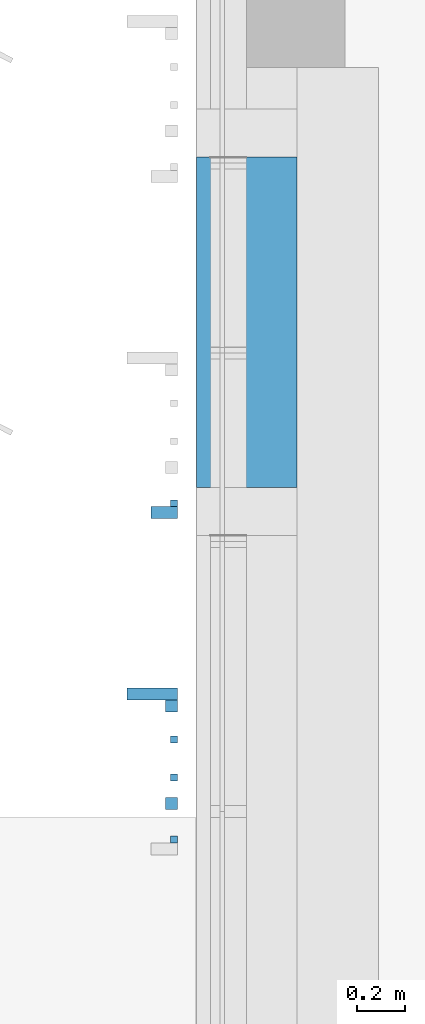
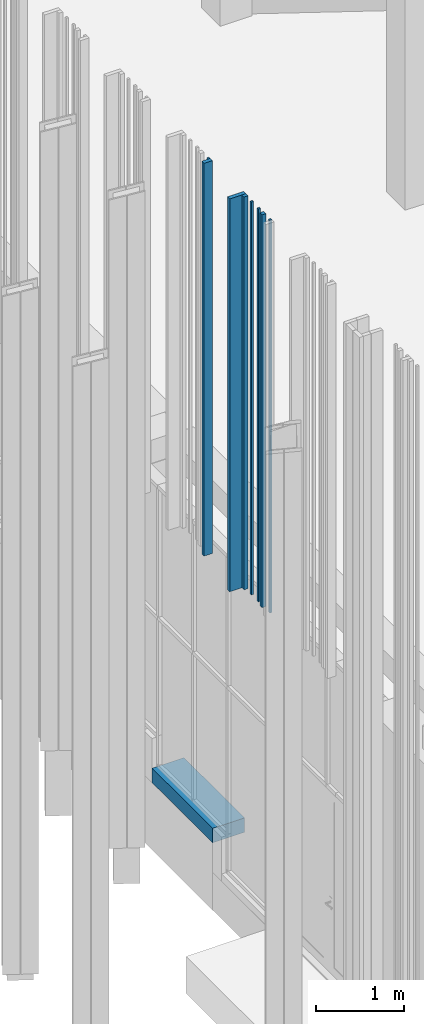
# One storey, part 106 of 390: 9 walls.
"""IFC2X3 building model written with IfcOpenShell, lengths in millimetres."""

import ifcopenshell
import ifcopenshell.guid

model = None  # the IFC model being written
_history = None  # IfcOwnerHistory: only IFC2X3 demands one
_inside = {}  # id of a spatial element -> (the spatial element, [elements in it])
_under = {}  # id of a project, library or spatial element -> (it, [spatial elements below it])
_declared = {}  # id of a project -> (the project, [libraries it declares])
_typed = {}  # id of a type object -> (the type object, [elements of that type])
_made_of = {}  # id of a material, layer set ... -> (it, [elements and type objects made of it])


def new_model(schema):
    """Start an empty IFC model of exactly this schema.

    Asked for "IFC4X3", IfcOpenShell would pick the latest addendum, in which some entities
    have other attributes; the version numbers below select the first issue.
    IFC2X3 requires an IfcOwnerHistory on every rooted entity: one is made here for all.
    """
    global model, _history
    if schema == "IFC4X3":
        model = ifcopenshell.file(schema_version=(4, 3, 0, 0))
    else:
        model = ifcopenshell.file(schema=schema)
    _inside.clear()
    _under.clear()
    _declared.clear()
    _typed.clear()
    _made_of.clear()
    _history = None
    if model.schema == "IFC2X3":
        org = make("IfcOrganization", Name="unknown")
        user = make(
            "IfcPersonAndOrganization",
            ThePerson=make("IfcPerson", FamilyName="unknown"),
            TheOrganization=org,
        )
        app = make(
            "IfcApplication",
            ApplicationDeveloper=org,
            Version="unknown",
            ApplicationFullName="unknown",
            ApplicationIdentifier="unknown",
        )
        _history = make(
            "IfcOwnerHistory",
            OwningUser=user,
            OwningApplication=app,
            ChangeAction="ADDED",
            CreationDate=0,
        )
    return model


def make(cls, **values):
    """One entity of the class cls with the attributes given. An attribute that is None is left unset."""
    return model.create_entity(
        cls, **{name: value for name, value in values.items() if value is not None}
    )


def entity(cls, *values):
    """Any entity or typed value of the class cls, its attributes in the order of the schema. None: left unset."""
    e = model.create_entity(cls)
    for i, value in enumerate(values):
        if value is not None:
            e[i] = value
    return e


def rooted(cls, **values):
    """An entity with a GlobalId (a new one), such as an element, a storey or a relation."""
    return make(cls, GlobalId=ifcopenshell.guid.new(), OwnerHistory=_history, **values)


def si_unit(unit_type, name, prefix=None):
    """IfcSIUnit, for example si_unit("LENGTHUNIT", "METRE", prefix="MILLI")."""
    return make("IfcSIUnit", UnitType=unit_type, Prefix=prefix, Name=name)


def converted_unit(unit_type, name, factor, base, dimensions=None, offset=None):
    """IfcConversionBasedUnit, such as the inch: factor (a typed value) times the base unit."""
    return make(
        "IfcConversionBasedUnit"
        if offset is None
        else "IfcConversionBasedUnitWithOffset",
        ConversionOffset=offset,
        Dimensions=None
        if dimensions is None
        else entity("IfcDimensionalExponents", *dimensions),
        UnitType=unit_type,
        Name=name,
        ConversionFactor=make(
            "IfcMeasureWithUnit", ValueComponent=factor, UnitComponent=base
        ),
    )


def derived_unit(unit_type, elements):
    """IfcDerivedUnit: a product of units, each with its exponent."""
    return make(
        "IfcDerivedUnit",
        Elements=[
            make("IfcDerivedUnitElement", Unit=unit, Exponent=power)
            for unit, power in elements
        ],
        UnitType=unit_type,
    )


def money_unit(currency):
    """IfcMonetaryUnit."""
    return make("IfcMonetaryUnit", Currency=currency)


def assignment(units):
    """IfcUnitAssignment: the units of a project."""
    return None if units is None else make("IfcUnitAssignment", Units=units)


def point(xyz):
    """IfcCartesianPoint."""
    return None if xyz is None else make("IfcCartesianPoint", Coordinates=xyz)


def direction(xyz):
    """IfcDirection."""
    return None if xyz is None else make("IfcDirection", DirectionRatios=xyz)


def frame(location, z_axis=None, x_axis=None):
    """IfcAxis2Placement3D, a coordinate frame: its origin and axes. An axis left out is left unset."""
    return make(
        "IfcAxis2Placement3D",
        Location=point(location),
        Axis=direction(z_axis),
        RefDirection=direction(x_axis),
    )


def origin_with_axes():
    """The frame at (0, 0, 0) with the z axis (0, 0, 1) and the x axis (1, 0, 0) written out."""
    return frame((0.0, 0.0, 0.0), z_axis=(0.0, 0.0, 1.0), x_axis=(1.0, 0.0, 0.0))


def place(relative_to, where):
    """IfcLocalPlacement: puts the frame where relative to a parent placement (None: the world)."""
    return make(
        "IfcLocalPlacement", PlacementRelTo=relative_to, RelativePlacement=where
    )


def context(
    kind, dimensions, precision=None, world=None, true_north=None, identifier=None
):
    """IfcGeometricRepresentationContext, for example the 3D "Model" context."""
    return make(
        "IfcGeometricRepresentationContext",
        ContextIdentifier=identifier,
        ContextType=kind,
        CoordinateSpaceDimension=dimensions,
        Precision=precision,
        WorldCoordinateSystem=world,
        TrueNorth=true_north,
    )


def subcontext(parent, identifier, kind, view, scale=None):
    """IfcGeometricRepresentationSubContext, for example "Body" below "Model"."""
    return make(
        "IfcGeometricRepresentationSubContext",
        ContextIdentifier=identifier,
        ContextType=kind,
        ParentContext=parent,
        TargetScale=scale,
        TargetView=view,
    )


def project(units=None, contexts=None):
    """IfcProject with its units and contexts."""
    return rooted(
        "IfcProject",
        Name="project",
        RepresentationContexts=contexts,
        UnitsInContext=assignment(units),
    )


def spatial(cls, under=None, at=None, **own):
    """A site, building, storey or space (cls), placed at a placement, below another one or the project."""
    s = rooted(cls, ObjectPlacement=at, **own)
    if under is not None:
        _under.setdefault(under.id(), (under, []))[1].append(s)
    return s


def faces_of(points, faces, orient=None, outer=None):
    """IfcFace entities. A face is a list of loops; a loop is a list of indices into points, from 0.

    orient and outer hold one flag for each loop. By default every Orientation is true, the
    first loop of a face is its IfcFaceOuterBound and the others are IfcFaceBound.
    """
    made = []
    for i, loops in enumerate(faces):
        bounds = []
        for j, loop in enumerate(loops):
            is_outer = j == 0 if outer is None else outer[i][j]
            bounds.append(
                make(
                    "IfcFaceOuterBound" if is_outer else "IfcFaceBound",
                    Bound=make("IfcPolyLoop", Polygon=[points[k] for k in loop]),
                    Orientation=True if orient is None else orient[i][j],
                )
            )
        made.append(make("IfcFace", Bounds=bounds))
    return made


def faceted_brep(points, faces, orient=None, outer=None, voids=None):
    """IfcFacetedBrep: a solid bounded by flat faces; with voids (closed shells), ...WithVoids."""
    shared = [point(p) for p in points]
    hull = make("IfcClosedShell", CfsFaces=faces_of(shared, faces, orient, outer))
    if voids is None:
        return make("IfcFacetedBrep", Outer=hull)
    return make(
        "IfcFacetedBrepWithVoids",
        Outer=hull,
        Voids=[
            make(cls, CfsFaces=faces_of(shared, fs, o, b)) for cls, fs, o, b in voids
        ],
    )


def shape(context_of_items, identifier, shape_type, items):
    """IfcShapeRepresentation: the items that make up one representation, for example the "Body"."""
    return make(
        "IfcShapeRepresentation",
        ContextOfItems=context_of_items,
        RepresentationIdentifier=identifier,
        RepresentationType=shape_type,
        Items=items,
    )


def material(Name=None, Category=None):
    """IfcMaterial."""
    return make("IfcMaterial", Name=Name, Category=Category)


def material_list(materials):
    """IfcMaterialList."""
    return make("IfcMaterialList", Materials=materials)


def made_of(thing, what):
    """Note that an element or type object is made of a material, layer set ...; save() writes the relation."""
    if what is not None:
        _made_of.setdefault(what.id(), (what, []))[1].append(thing)
    return thing


def type_object(cls, material=None, **own):
    """A type object (cls), such as IfcWallType, which elements share."""
    return made_of(rooted(cls, **own), material)


def element(
    cls,
    number,
    at=None,
    inside=None,
    cuts=None,
    type_object=None,
    material=None,
    context=None,
    identifier="Body",
    shape_type=None,
    held_by="IfcProductDefinitionShape",
    body=None,
    shapes=None,
    **own,
):
    """One element of the class cls, such as IfcWall. Its Tag is "e" and its number.

    at: its placement. inside: the storey or other place that contains it. cuts: it is an
    opening in that element (IfcRelVoidsElement). A single representation is given by context,
    identifier, shape_type and body (its items); several are given by shapes. held_by: the class
    of the entity that holds the representations. save() writes the other relations.
    """
    e = rooted(cls, Tag="e%d" % number, ObjectPlacement=at, **own)
    if body is not None:
        shapes = [shape(context, identifier, shape_type, body)]
    if shapes is not None:
        e.Representation = make(held_by, Representations=shapes)
    if inside is not None:
        _inside.setdefault(inside.id(), (inside, []))[1].append(e)
    if cuts is not None:
        rooted(
            "IfcRelVoidsElement", RelatingBuildingElement=cuts, RelatedOpeningElement=e
        )
    if type_object is not None:
        _typed.setdefault(type_object.id(), (type_object, []))[1].append(e)
    return made_of(e, material)


def aggregate(whole, parts):
    """IfcRelAggregates: a whole, such as a stair, and the parts it consists of."""
    return rooted("IfcRelAggregates", RelatingObject=whole, RelatedObjects=parts)


def save(model, path):
    """Write the relations noted so far, then the file.

    IfcRelAggregates (storeys below a building ...), IfcRelContainedInSpatialStructure (elements
    in a storey), IfcRelDefinesByType, IfcRelAssociatesMaterial and IfcRelDeclares: one each for
    every whole, place, type object, material and project.
    """
    for whole, parts in _under.values():
        aggregate(whole, parts)
    for where, things in _inside.values():
        rooted(
            "IfcRelContainedInSpatialStructure",
            RelatedElements=things,
            RelatingStructure=where,
        )
    for kind, things in _typed.values():
        rooted("IfcRelDefinesByType", RelatedObjects=things, RelatingType=kind)
    for what, things in _made_of.values():
        rooted("IfcRelAssociatesMaterial", RelatedObjects=things, RelatingMaterial=what)
    for by, libraries in _declared.values():
        rooted("IfcRelDeclares", RelatingContext=by, RelatedDefinitions=libraries)
    model.write(path)


model = new_model("IFC2X3")

# Units and contexts
model_context = context("Model", 3, precision=1e-05, world=origin_with_axes(), true_north=direction((0.0, 1.0)))
body_context = subcontext(model_context, "Body", "Model", "MODEL_VIEW")
ifc_project = project(units=[si_unit("LENGTHUNIT", "METRE", prefix="MILLI"), si_unit("AREAUNIT", "SQUARE_METRE"), si_unit("VOLUMEUNIT", "CUBIC_METRE"), converted_unit("PLANEANGLEUNIT", "DEGREE", entity("IfcPlaneAngleMeasure", 0.0174532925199), si_unit("PLANEANGLEUNIT", "RADIAN"), dimensions=[0, 0, 0, 0, 0, 0, 0]), si_unit("SOLIDANGLEUNIT", "STERADIAN"), money_unit("EUR"), converted_unit("TIMEUNIT", "Year", entity("IfcTimeMeasure", 31556926.0), si_unit("TIMEUNIT", "SECOND"), dimensions=[0, 0, 1, 0, 0, 0, 0]), si_unit("MASSUNIT", "GRAM", prefix="KILO"), si_unit("THERMODYNAMICTEMPERATUREUNIT", "DEGREE_CELSIUS"), si_unit("LUMINOUSINTENSITYUNIT", "LUMEN"), si_unit("ENERGYUNIT", "JOULE", prefix="MEGA"), derived_unit("THERMALCONDUCTANCEUNIT", [(si_unit("POWERUNIT", "WATT"), 1), (si_unit("LENGTHUNIT", "METRE"), -1), (si_unit("THERMODYNAMICTEMPERATUREUNIT", "KELVIN"), -1)]), derived_unit("SPECIFICHEATCAPACITYUNIT", [(si_unit("ENERGYUNIT", "JOULE"), 1), (si_unit("MASSUNIT", "GRAM", prefix="KILO"), -1), (si_unit("THERMODYNAMICTEMPERATUREUNIT", "KELVIN"), -1)]), derived_unit("MASSDENSITYUNIT", [(si_unit("MASSUNIT", "GRAM", prefix="KILO"), 1), (si_unit("VOLUMEUNIT", "CUBIC_METRE"), -1)])], contexts=[model_context])

# Site, building, storey
site_placement = place(None, origin_with_axes())
site = spatial("IfcSite", under=ifc_project, at=site_placement, Name="Site", CompositionType="ELEMENT")
building_placement = place(site_placement, origin_with_axes())
building = spatial("IfcBuilding", under=site, at=building_placement, Name="Building", CompositionType="ELEMENT")
storey_placement = place(building_placement, origin_with_axes())
storey = spatial("IfcBuildingStorey", under=building, at=storey_placement, Name="1 korrus", CompositionType="ELEMENT", Elevation=0.0)

# Walls
ifc_material_1 = material(Name="Site specified")
wall_type_1 = type_object("IfcWallType", Name="Puitfassaadi ribistik", PredefinedType="NOTDEFINED")
wall_1_placement = place(storey_placement, frame((122308.499997, 49352.0000095, 4424.99966101), z_axis=(0.0, 0.0, 1.0), x_axis=(0.0, 1.0, 0.0)))
element("IfcWall", 1, at=wall_1_placement, inside=storey, type_object=wall_type_1, material=ifc_material_1, Name="Site specified", context=body_context, shape_type="Brep", body=[
    faceted_brep([(25.0, 104.5, 5440.00033899), (25.0, 104.5, 0.0), (-25.0, 104.5, 0.0), (-25.0, 104.5, 5440.00033899), (25.0, -104.5, 5440.00033899), (25.0, -104.5, 0.0), (-25.0, -104.5, 0.0), (-25.0, -104.5, 5440.00033899)], [[[0, 1, 2, 3]], [[4, 5, 1, 0]], [[2, 1, 5, 6]], [[3, 2, 6, 7]], [[4, 0, 3, 7]], [[7, 6, 5, 4]]]),
])
for number, where, z_axis, x_axis, name in (
    (2, (122398.999997, 48747.0000095, 4424.99966101), (0.0, 0.0, 1.0), (0.0, 1.0, 0.0), "Site specified"),
    (3, (122398.999997, 49005.0000095, 4424.99966101), (0.0, 0.0, 1.0), (0.0, 1.0, 0.0), "Site specified"),
):
    element("IfcWall", number, at=place(storey_placement, frame(where, z_axis=z_axis, x_axis=x_axis)), inside=storey, type_object=wall_type_1, material=ifc_material_1, Name=name, context=body_context, shape_type="Brep", body=[
        faceted_brep([(14.0, 14.0, 5440.00033899), (14.0, 14.0, 0.0), (-14.0, 14.0, 0.0), (-14.0, 14.0, 5440.00033899), (14.0, -14.0, 5440.00033899), (14.0, -14.0, 0.0), (-14.0, -14.0, 0.0), (-14.0, -14.0, 5440.00033899)], [[[0, 1, 2, 3]], [[4, 5, 1, 0]], [[2, 1, 5, 6]], [[3, 2, 6, 7]], [[4, 0, 3, 7]], [[7, 6, 5, 4]]]),
    ])
for number, where, z_axis, x_axis, name in (
    (4, (122387.999997, 49302.0000095, 4424.99966101), (0.0, 0.0, 1.0), (0.0, 1.0, 0.0), "Site specified"),
    (5, (122387.999997, 48896.0000095, 4424.99966101), (0.0, 0.0, 1.0), (0.0, 1.0, 0.0), "Site specified"),
):
    element("IfcWall", number, at=place(storey_placement, frame(where, z_axis=z_axis, x_axis=x_axis)), inside=storey, type_object=wall_type_1, material=ifc_material_1, Name=name, context=body_context, shape_type="Brep", body=[
        faceted_brep([(25.0, 25.0, 5440.00033899), (25.0, 25.0, 0.0), (-25.0, 25.0, 0.0), (-25.0, 25.0, 5440.00033899), (25.0, -25.0, 5440.00033899), (25.0, -25.0, 0.0), (-25.0, -25.0, 0.0), (-25.0, -25.0, 5440.00033899)], [[[0, 1, 2, 3]], [[4, 5, 1, 0]], [[2, 1, 5, 6]], [[3, 2, 6, 7]], [[4, 0, 3, 7]], [[7, 6, 5, 4]]]),
    ])
wall_2_placement = place(storey_placement, frame((122398.999997, 49163.0000095, 4424.99966101), z_axis=(0.0, 0.0, 1.0), x_axis=(0.0, 1.0, 0.0)))
element("IfcWall", 6, at=wall_2_placement, inside=storey, type_object=wall_type_1, material=ifc_material_1, Name="Site specified", context=body_context, shape_type="Brep", body=[
    faceted_brep([(14.0, 14.0, 5440.00033899), (14.0, 14.0, 0.0), (-14.0, 14.0, 0.0), (-14.0, 14.0, 5440.00033899), (14.0, -14.0, 5440.00033899), (14.0, -14.0, 0.0), (-14.0, -14.0, 0.0), (-14.0, -14.0, 5440.00033899)], [[[0, 1, 2, 3]], [[4, 5, 1, 0]], [[2, 1, 5, 6]], [[3, 2, 6, 7]], [[4, 0, 3, 7]], [[7, 6, 5, 4]]]),
])
wall_3_placement = place(storey_placement, frame((122358.499997, 50108.0000095, 4424.99966101), z_axis=(0.0, 0.0, 1.0), x_axis=(0.0, 1.0, 0.0)))
element("IfcWall", 7, at=wall_3_placement, inside=storey, type_object=wall_type_1, material=ifc_material_1, Name="Site specified", context=body_context, shape_type="Brep", body=[
    faceted_brep([(25.0, 54.5, 5440.00033899), (25.0, 54.5, 0.0), (-25.0, 54.5, 0.0), (-25.0, 54.5, 5440.00033899), (25.0, -54.5, 5440.00033899), (25.0, -54.5, 0.0), (-25.0, -54.5, 0.0), (-25.0, -54.5, 5440.00033899)], [[[0, 1, 2, 3]], [[4, 5, 1, 0]], [[2, 1, 5, 6]], [[3, 2, 6, 7]], [[4, 0, 3, 7]], [[7, 6, 5, 4]]]),
])
wall_4_placement = place(storey_placement, frame((122398.999997, 50147.0000095, 4424.99966101), z_axis=(0.0, 0.0, 1.0), x_axis=(0.0, 1.0, 0.0)))
element("IfcWall", 8, at=wall_4_placement, inside=storey, type_object=wall_type_1, material=ifc_material_1, Name="Site specified", context=body_context, shape_type="Brep", body=[
    faceted_brep([(14.0, 14.0, 5440.00033899), (14.0, 14.0, 0.0), (-14.0, 14.0, 0.0), (-14.0, 14.0, 5440.00033899), (14.0, -14.0, 5440.00033899), (14.0, -14.0, 0.0), (-14.0, -14.0, 0.0), (-14.0, -14.0, 5440.00033899)], [[[0, 1, 2, 3]], [[4, 5, 1, 0]], [[2, 1, 5, 6]], [[3, 2, 6, 7]], [[4, 0, 3, 7]], [[7, 6, 5, 4]]]),
])
ifc_material_2 = material(Name="Plaat - Sein")
ifc_material_3 = material(Name="Soojustus - Plastik Kõva")
ifc_material_4 = material(Name="Raudbetoon - Konstruktsioon")
ifc_material_5 = material(Name="Krohv - Lubjakivi")
ifc_material_list = material_list([ifc_material_2, ifc_material_3, ifc_material_3, ifc_material_4, ifc_material_5])
wall_type_2 = type_object("IfcWallType", Name="VS-05", PredefinedType="NOTDEFINED")
wall_5_placement = place(storey_placement, frame((122909.999995, 50212.5685666, 310.0), z_axis=(0.0, 0.0, 1.0), x_axis=(0.0, 1.0, 0.0)))
element("IfcWall", 9, at=wall_5_placement, inside=storey, type_object=wall_type_2, material=ifc_material_list, Name="VS-05", context=body_context, shape_type="Brep", body=[
    faceted_brep([(1374.99999346, 418.000000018, 0.0), (1374.99999346, 410.000000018, 0.0), (-5.49960077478e-09, 410.0, 0.0), (-5.60618218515e-09, 418.0, 0.0), (1374.99999346, 418.000000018, 200.0), (1374.99999346, 410.000000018, 200.0), (-5.49960077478e-09, 410.0, 200.0), (-5.60618218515e-09, 418.0, 200.0)], [[[0, 1, 2, 3]], [[0, 4, 5, 1]], [[1, 5, 6, 2]], [[3, 2, 6, 7]], [[4, 0, 3, 7]], [[5, 4, 7, 6]]]),
    faceted_brep([(1374.99999346, 410.000000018, 0.0), (1374.99999347, 360.000000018, 0.0), (-4.83169060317e-09, 360.0, 0.0), (-5.49960077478e-09, 410.0, 0.0), (1374.99999346, 410.000000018, 200.0), (1374.99999347, 360.000000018, 200.0), (-4.83169060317e-09, 360.0, 200.0), (-5.49960077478e-09, 410.0, 200.0)], [[[0, 1, 2, 3]], [[0, 4, 5, 1]], [[1, 5, 6, 2]], [[3, 2, 6, 7]], [[4, 0, 3, 7]], [[5, 4, 7, 6]]]),
    faceted_brep([(1374.99999347, 360.000000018, 0.0), (1374.99999347, 210.000000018, 0.0), (-2.81374923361e-09, 210.0, 0.0), (-4.83169060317e-09, 360.0, 0.0), (1374.99999347, 360.000000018, 200.0), (1374.99999347, 210.000000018, 200.0), (-2.81374923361e-09, 210.0, 200.0), (-4.83169060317e-09, 360.0, 200.0)], [[[0, 1, 2, 3]], [[0, 4, 5, 1]], [[1, 5, 6, 2]], [[3, 2, 6, 7]], [[4, 0, 3, 7]], [[5, 4, 7, 6]]]),
    faceted_brep([(1374.99999347, 210.000000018, 0.0), (1374.99999347, 10.0000000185, 0.0), (-1.35003119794e-10, 10.0, 0.0), (-2.81374923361e-09, 210.0, 0.0), (1374.99999347, 210.000000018, 200.0), (1374.99999347, 10.0000000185, 200.0), (-1.35003119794e-10, 10.0, 200.0), (-2.81374923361e-09, 210.0, 200.0)], [[[0, 1, 2, 3]], [[0, 4, 5, 1]], [[1, 5, 6, 2]], [[3, 2, 6, 7]], [[4, 0, 3, 7]], [[5, 4, 7, 6]]]),
    faceted_brep([(1374.99999347, 10.0000000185, 0.0), (1374.99999347, 1.84456894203e-08, 0.0), (0.0, 0.0, 0.0), (-1.35003119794e-10, 10.0, 0.0), (1374.99999347, 10.0000000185, 200.0), (1374.99999347, 1.84456894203e-08, 200.0), (0.0, 0.0, 200.0), (-1.35003119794e-10, 10.0, 200.0)], [[[0, 1, 2, 3]], [[0, 4, 5, 1]], [[1, 5, 6, 2]], [[3, 2, 6, 7]], [[4, 0, 3, 7]], [[5, 4, 7, 6]]]),
])

save(model, "model.ifc")
